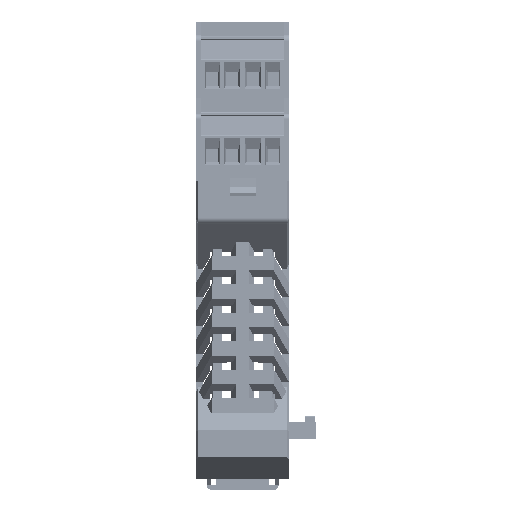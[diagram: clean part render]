
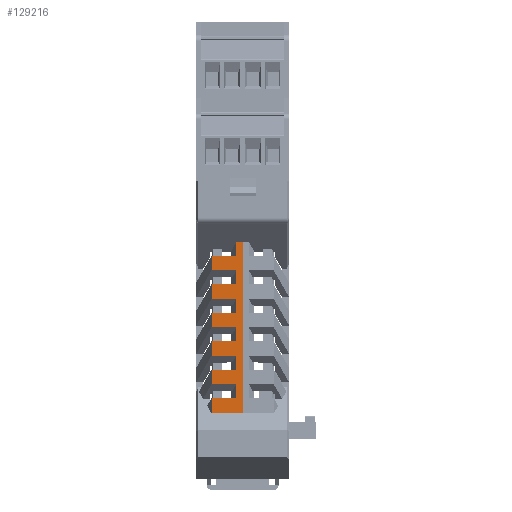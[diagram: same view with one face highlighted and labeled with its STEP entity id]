
A CAD part, front view. The second image highlights one B-rep face of the part: STEP entity #129216.
In plain terms, the highlighted planar face has unit normal (0, -1, 0) as drawn and (1, 0, 0) by its records, which use the part's own axes.
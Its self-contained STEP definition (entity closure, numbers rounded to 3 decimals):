
#129216=ADVANCED_FACE('',(#258698),#258700,.T.);
#258698=FACE_BOUND('',#258699,.T.);
#258699=EDGE_LOOP('',(#363625,#363626,#363627,#363628,#363629,#363630,#363631,#363632,
#363633,#363634,#363635,#363636,#363637,#363638,#363639,#363640,#363641,#363642,
#363643,#363644,#363645,#363646,#363647,#363648,#363649,#363650));
#258700=PLANE('',#258701);
#258701=AXIS2_PLACEMENT_3D('',#258702,#258703,#258704);
#258702=CARTESIAN_POINT('',(42.55,76.5,0.));
#258703=DIRECTION('',(1.,0.,0.));
#258704=DIRECTION('',(0.,0.,-1.));
#363625=ORIENTED_EDGE('',*,*,#422118,.F.);
#363626=ORIENTED_EDGE('',*,*,#422057,.F.);
#363627=ORIENTED_EDGE('',*,*,#422119,.F.);
#363628=ORIENTED_EDGE('',*,*,#422120,.T.);
#363629=ORIENTED_EDGE('',*,*,#421621,.T.);
#363630=ORIENTED_EDGE('',*,*,#422121,.F.);
#363631=ORIENTED_EDGE('',*,*,#421987,.F.);
#363632=ORIENTED_EDGE('',*,*,#422052,.F.);
#363633=ORIENTED_EDGE('',*,*,#421782,.F.);
#363634=ORIENTED_EDGE('',*,*,#422098,.T.);
#363635=ORIENTED_EDGE('',*,*,#422076,.F.);
#363636=ORIENTED_EDGE('',*,*,#422049,.F.);
#363637=ORIENTED_EDGE('',*,*,#422104,.F.);
#363638=ORIENTED_EDGE('',*,*,#422122,.T.);
#363639=ORIENTED_EDGE('',*,*,#422105,.T.);
#363640=ORIENTED_EDGE('',*,*,#422063,.F.);
#363641=ORIENTED_EDGE('',*,*,#422117,.T.);
#363642=ORIENTED_EDGE('',*,*,#422123,.T.);
#363643=ORIENTED_EDGE('',*,*,#422124,.T.);
#363644=ORIENTED_EDGE('',*,*,#422060,.F.);
#363645=ORIENTED_EDGE('',*,*,#422039,.T.);
#363646=ORIENTED_EDGE('',*,*,#422125,.F.);
#363647=ORIENTED_EDGE('',*,*,#422019,.T.);
#363648=ORIENTED_EDGE('',*,*,#422059,.F.);
#363649=ORIENTED_EDGE('',*,*,#422032,.T.);
#363650=ORIENTED_EDGE('',*,*,#422126,.T.);
#421621=EDGE_CURVE('',#498032,#498030,#498033,.T.);
#421782=EDGE_CURVE('',#498306,#498308,#498309,.T.);
#421987=EDGE_CURVE('',#498653,#498655,#498656,.T.);
#422019=EDGE_CURVE('',#498697,#498703,#498705,.T.);
#422032=EDGE_CURVE('',#498725,#498723,#498726,.T.);
#422039=EDGE_CURVE('',#498729,#498733,#498735,.T.);
#422049=EDGE_CURVE('',#498750,#498752,#498753,.T.);
#422052=EDGE_CURVE('',#498308,#498653,#498757,.T.);
#422057=EDGE_CURVE('',#498764,#498766,#498767,.T.);
#422059=EDGE_CURVE('',#498725,#498703,#498769,.T.);
#422060=EDGE_CURVE('',#498729,#498770,#498771,.T.);
#422063=EDGE_CURVE('',#498773,#498775,#498776,.T.);
#422076=EDGE_CURVE('',#498752,#498795,#498796,.T.);
#422098=EDGE_CURVE('',#498306,#498795,#498831,.T.);
#422104=EDGE_CURVE('',#498838,#498750,#498840,.T.);
#422105=EDGE_CURVE('',#498841,#498775,#498842,.T.);
#422117=EDGE_CURVE('',#498773,#498856,#498858,.T.);
#422118=EDGE_CURVE('',#498766,#498859,#498860,.T.);
#422119=EDGE_CURVE('',#498861,#498764,#498862,.T.);
#422120=EDGE_CURVE('',#498861,#498032,#498863,.T.);
#422121=EDGE_CURVE('',#498655,#498030,#498864,.T.);
#422122=EDGE_CURVE('',#498838,#498841,#498865,.T.);
#422123=EDGE_CURVE('',#498856,#498866,#498867,.T.);
#422124=EDGE_CURVE('',#498866,#498770,#498868,.T.);
#422125=EDGE_CURVE('',#498697,#498733,#498869,.T.);
#422126=EDGE_CURVE('',#498723,#498859,#498870,.T.);
#498030=VERTEX_POINT('',#677223);
#498032=VERTEX_POINT('',#677227);
#498033=LINE('',#677228,#677229);
#498306=VERTEX_POINT('',#677830);
#498308=VERTEX_POINT('',#677834);
#498309=LINE('',#677835,#677836);
#498653=VERTEX_POINT('',#678605);
#498655=VERTEX_POINT('',#678609);
#498656=LINE('',#678610,#678611);
#498697=VERTEX_POINT('',#678705);
#498703=VERTEX_POINT('',#678719);
#498705=LINE('',#678723,#678724);
#498723=VERTEX_POINT('',#678765);
#498725=VERTEX_POINT('',#678769);
#498726=LINE('',#678770,#678771);
#498729=VERTEX_POINT('',#678779);
#498733=VERTEX_POINT('',#678789);
#498735=LINE('',#678793,#678794);
#498750=VERTEX_POINT('',#678826);
#498752=VERTEX_POINT('',#678830);
#498753=LINE('',#678831,#678832);
#498757=LINE('',#678841,#678842);
#498764=VERTEX_POINT('',#678856);
#498766=VERTEX_POINT('',#678860);
#498767=LINE('',#678861,#678862);
#498769=LINE('',#678867,#678868);
#498770=VERTEX_POINT('',#678870);
#498771=LINE('',#678871,#678872);
#498773=VERTEX_POINT('',#678877);
#498775=VERTEX_POINT('',#678881);
#498776=LINE('',#678882,#678883);
#498795=VERTEX_POINT('',#678927);
#498796=LINE('',#678928,#678929);
#498831=LINE('',#679007,#679008);
#498838=VERTEX_POINT('',#679024);
#498840=LINE('',#679028,#679029);
#498841=VERTEX_POINT('',#679031);
#498842=LINE('',#679032,#679033);
#498856=VERTEX_POINT('',#679068);
#498858=LINE('',#679072,#679073);
#498859=VERTEX_POINT('',#679075);
#498860=LINE('',#679076,#679077);
#498861=VERTEX_POINT('',#679079);
#498862=LINE('',#679080,#679081);
#498863=LINE('',#679083,#679084);
#498864=LINE('',#679086,#679087);
#498865=LINE('',#679089,#679090);
#498866=VERTEX_POINT('',#679092);
#498867=LINE('',#679093,#679094);
#498868=LINE('',#679096,#679097);
#498869=LINE('',#679099,#679100);
#498870=LINE('',#679102,#679103);
#677223=CARTESIAN_POINT('',(42.55,20.,0.));
#677227=CARTESIAN_POINT('',(42.55,20.,7.547));
#677228=CARTESIAN_POINT('',(42.55,20.,7.547));
#677229=VECTOR('',#677230,1.);
#677230=DIRECTION('',(0.,0.,-1.));
#677830=CARTESIAN_POINT('',(42.55,58.2,7.547));
#677834=CARTESIAN_POINT('',(42.55,58.2,1.5));
#677835=CARTESIAN_POINT('',(42.55,58.2,7.547));
#677836=VECTOR('',#677837,1.);
#677837=DIRECTION('',(0.,0.,-1.));
#678605=CARTESIAN_POINT('',(42.55,61.6,1.5));
#678609=CARTESIAN_POINT('',(42.55,61.6,0.));
#678610=CARTESIAN_POINT('',(42.55,61.6,1.5));
#678611=VECTOR('',#678612,1.);
#678612=DIRECTION('',(0.,0.,-1.));
#678705=CARTESIAN_POINT('',(42.55,34.,7.547));
#678719=CARTESIAN_POINT('',(42.55,34.,1.5));
#678723=CARTESIAN_POINT('',(42.55,34.,7.547));
#678724=VECTOR('',#678725,1.);
#678725=DIRECTION('',(0.,0.,-1.));
#678765=CARTESIAN_POINT('',(42.55,30.6,7.547));
#678769=CARTESIAN_POINT('',(42.55,30.6,1.5));
#678770=CARTESIAN_POINT('',(42.55,30.6,1.5));
#678771=VECTOR('',#678772,1.);
#678772=DIRECTION('',(0.,0.,1.));
#678779=CARTESIAN_POINT('',(42.55,37.5,1.5));
#678789=CARTESIAN_POINT('',(42.55,37.5,7.547));
#678793=CARTESIAN_POINT('',(42.55,37.5,1.5));
#678794=VECTOR('',#678795,1.);
#678795=DIRECTION('',(0.,0.,1.));
#678826=CARTESIAN_POINT('',(42.55,51.3,1.5));
#678830=CARTESIAN_POINT('',(42.55,54.7,1.5));
#678831=CARTESIAN_POINT('',(42.55,51.3,1.5));
#678832=VECTOR('',#678833,1.);
#678833=DIRECTION('',(0.,1.,0.));
#678841=CARTESIAN_POINT('',(42.55,58.2,1.5));
#678842=VECTOR('',#678843,1.);
#678843=DIRECTION('',(0.,1.,0.));
#678856=CARTESIAN_POINT('',(42.55,23.7,1.5));
#678860=CARTESIAN_POINT('',(42.55,27.1,1.5));
#678861=CARTESIAN_POINT('',(42.55,23.7,1.5));
#678862=VECTOR('',#678863,1.);
#678863=DIRECTION('',(0.,1.,0.));
#678867=CARTESIAN_POINT('',(42.55,30.6,1.5));
#678868=VECTOR('',#678869,1.);
#678869=DIRECTION('',(0.,1.,0.));
#678870=CARTESIAN_POINT('',(42.55,40.9,1.5));
#678871=CARTESIAN_POINT('',(42.55,37.5,1.5));
#678872=VECTOR('',#678873,1.);
#678873=DIRECTION('',(0.,1.,0.));
#678877=CARTESIAN_POINT('',(42.55,44.4,1.5));
#678881=CARTESIAN_POINT('',(42.55,47.8,1.5));
#678882=CARTESIAN_POINT('',(42.55,44.4,1.5));
#678883=VECTOR('',#678884,1.);
#678884=DIRECTION('',(0.,1.,0.));
#678927=CARTESIAN_POINT('',(42.55,54.7,7.547));
#678928=CARTESIAN_POINT('',(42.55,54.7,1.5));
#678929=VECTOR('',#678930,1.);
#678930=DIRECTION('',(0.,0.,1.));
#679007=CARTESIAN_POINT('',(42.55,58.2,7.547));
#679008=VECTOR('',#679009,1.);
#679009=DIRECTION('',(0.,-1.,0.));
#679024=CARTESIAN_POINT('',(42.55,51.3,7.547));
#679028=CARTESIAN_POINT('',(42.55,51.3,7.547));
#679029=VECTOR('',#679030,1.);
#679030=DIRECTION('',(0.,0.,-1.));
#679031=CARTESIAN_POINT('',(42.55,47.8,7.547));
#679032=CARTESIAN_POINT('',(42.55,47.8,7.547));
#679033=VECTOR('',#679034,1.);
#679034=DIRECTION('',(0.,0.,-1.));
#679068=CARTESIAN_POINT('',(42.55,44.4,7.547));
#679072=CARTESIAN_POINT('',(42.55,44.4,1.5));
#679073=VECTOR('',#679074,1.);
#679074=DIRECTION('',(0.,0.,1.));
#679075=CARTESIAN_POINT('',(42.55,27.1,7.547));
#679076=CARTESIAN_POINT('',(42.55,27.1,1.5));
#679077=VECTOR('',#679078,1.);
#679078=DIRECTION('',(0.,0.,1.));
#679079=CARTESIAN_POINT('',(42.55,23.7,7.547));
#679080=CARTESIAN_POINT('',(42.55,23.7,7.547));
#679081=VECTOR('',#679082,1.);
#679082=DIRECTION('',(0.,0.,-1.));
#679083=CARTESIAN_POINT('',(42.55,23.7,7.547));
#679084=VECTOR('',#679085,1.);
#679085=DIRECTION('',(0.,-1.,0.));
#679086=CARTESIAN_POINT('',(42.55,61.6,0.));
#679087=VECTOR('',#679088,1.);
#679088=DIRECTION('',(0.,-1.,0.));
#679089=CARTESIAN_POINT('',(42.55,51.3,7.547));
#679090=VECTOR('',#679091,1.);
#679091=DIRECTION('',(0.,-1.,0.));
#679092=CARTESIAN_POINT('',(42.55,40.9,7.547));
#679093=CARTESIAN_POINT('',(42.55,44.4,7.547));
#679094=VECTOR('',#679095,1.);
#679095=DIRECTION('',(0.,-1.,0.));
#679096=CARTESIAN_POINT('',(42.55,40.9,7.547));
#679097=VECTOR('',#679098,1.);
#679098=DIRECTION('',(0.,0.,-1.));
#679099=CARTESIAN_POINT('',(42.55,34.,7.547));
#679100=VECTOR('',#679101,1.);
#679101=DIRECTION('',(0.,1.,0.));
#679102=CARTESIAN_POINT('',(42.55,30.6,7.547));
#679103=VECTOR('',#679104,1.);
#679104=DIRECTION('',(0.,-1.,0.));
